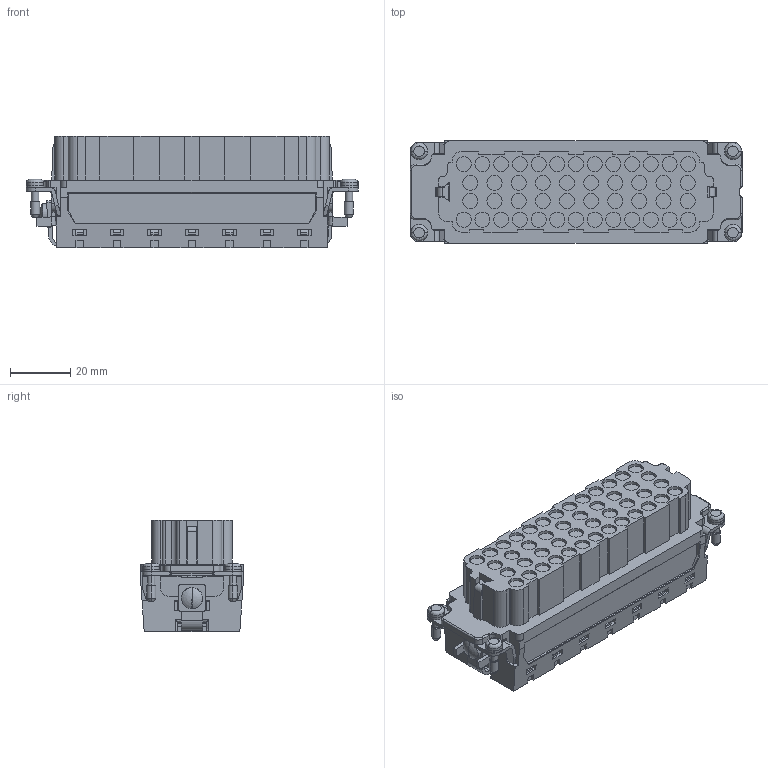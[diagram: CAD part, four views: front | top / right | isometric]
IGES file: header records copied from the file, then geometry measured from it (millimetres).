
Start section:  PTC IGES file: c-1102887-1-b-3d.igs
Global section: file name: c-1102887-1-b-3d.igs; native system: Creo Parametric by Parametric Technology Corporation; preprocessor: 2013050; author: workeradm; organization: Unknown; units: millimetre
Bounding box: 110 x 34 x 36.9 mm (x, y, z)
Surface area: 21647.3 mm2 (no closed solid volume)
Topology: 0 solids, 0 shells, 1110 faces, 5772 edges, 5770 vertices
Faces by surface type: bspline 746, revolution 364
